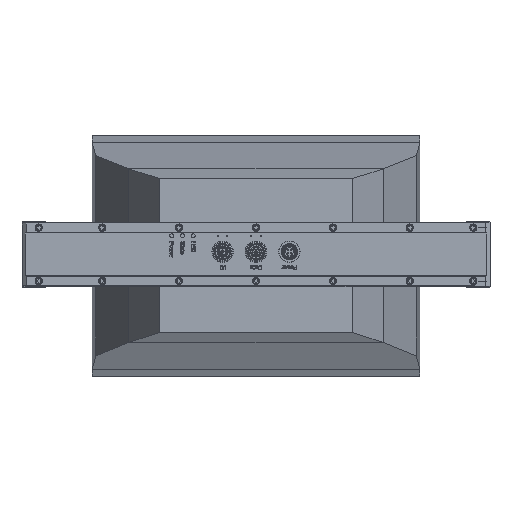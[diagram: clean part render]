
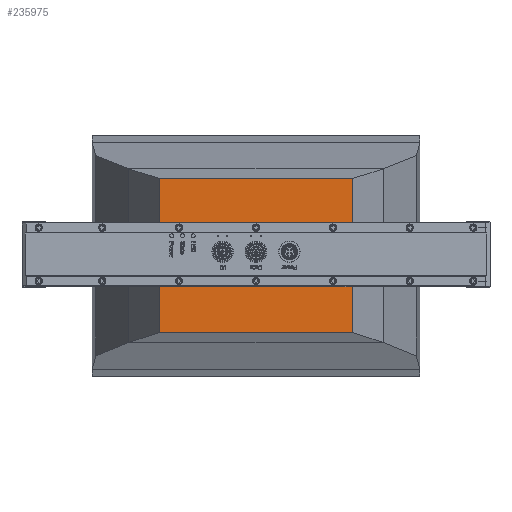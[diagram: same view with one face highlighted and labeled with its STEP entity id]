
A CAD part, top view. The second image highlights one B-rep face of the part: STEP entity #235975.
In plain terms, the highlighted planar face has unit normal (0, 0, 1) as drawn and (0, 0, -1) by its records, which use the part's own axes.
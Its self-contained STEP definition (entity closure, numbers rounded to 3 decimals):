
#235790=DIRECTION('',(0.,-1.,0.));
#235791=VECTOR('',#235790,115.);
#235792=CARTESIAN_POINT('',(72.5,57.5,-200.));
#235793=LINE('',#235792,#235791);
#235811=DIRECTION('',(1.,0.,0.));
#235812=VECTOR('',#235811,145.);
#235813=CARTESIAN_POINT('',(-72.5,57.5,-200.));
#235814=LINE('',#235813,#235812);
#235818=DIRECTION('',(0.,1.,0.));
#235819=VECTOR('',#235818,115.);
#235820=CARTESIAN_POINT('',(-72.5,-57.5,-200.));
#235821=LINE('',#235820,#235819);
#235832=DIRECTION('',(-1.,0.,0.));
#235833=VECTOR('',#235832,145.);
#235834=CARTESIAN_POINT('',(72.5,-57.5,-200.));
#235835=LINE('',#235834,#235833);
#235860=CARTESIAN_POINT('',(72.5,-57.5,-200.));
#235862=VERTEX_POINT('',#235860);
#235865=CARTESIAN_POINT('',(-72.5,-57.5,-200.));
#235867=VERTEX_POINT('',#235865);
#235868=CARTESIAN_POINT('',(72.5,57.5,-200.));
#235870=VERTEX_POINT('',#235868);
#235873=CARTESIAN_POINT('',(-72.5,57.5,-200.));
#235875=VERTEX_POINT('',#235873);
#235963=CARTESIAN_POINT('',(72.5,-30.,-200.));
#235964=DIRECTION('',(0.,0.,-1.));
#235965=DIRECTION('',(-1.,0.,0.));
#235966=AXIS2_PLACEMENT_3D('',#235963,#235964,#235965);
#235967=PLANE('',#235966);
#235968=ORIENTED_EDGE('',*,*,#235907,.F.);
#235969=ORIENTED_EDGE('',*,*,#235930,.F.);
#235970=ORIENTED_EDGE('',*,*,#235947,.F.);
#235972=ORIENTED_EDGE('',*,*,#235971,.F.);
#235973=EDGE_LOOP('',(#235968,#235969,#235970,#235972));
#235974=FACE_OUTER_BOUND('',#235973,.F.);
#235907=EDGE_CURVE('',#235870,#235862,#235793,.T.);
#235930=EDGE_CURVE('',#235875,#235870,#235814,.T.);
#235947=EDGE_CURVE('',#235867,#235875,#235821,.T.);
#235971=EDGE_CURVE('',#235862,#235867,#235835,.T.);
#235975=ADVANCED_FACE('',(#235974),#235967,.T.);
